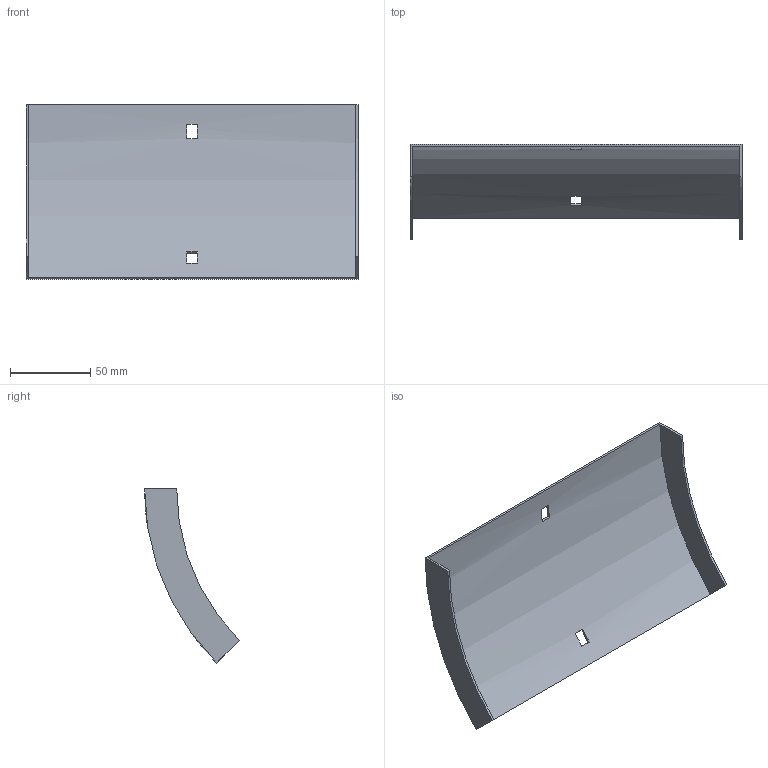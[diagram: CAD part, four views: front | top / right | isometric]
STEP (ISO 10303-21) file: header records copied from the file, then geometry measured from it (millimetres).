
FILE_DESCRIPTION (( 'STEP AP214' ), '1' );
FILE_NAME ('34N1B200.step', '2025-02-21T09:14:54', ( '' ), ( '' ), 'SwSTEP 2.0', 'SolidWorks 2023', '' );
FILE_SCHEMA (( 'AUTOMOTIVE_DESIGN' ));
Length unit declared in the file: millimetre
Products named in the file (1): 34N1B200
Bounding box: 207 x 59.1 x 108.54 mm (x, y, z)
Volume: 43296.4 mm3; surface area: 58870.4 mm2
Topology: 1 solids, 1 shells, 18 faces, 48 edges, 32 vertices
Faces by surface type: plane 14, cylinder 4
Entity records: 599 total; most frequent: DIRECTION 102, CARTESIAN_POINT 99, ORIENTED_EDGE 96, EDGE_CURVE 48, AXIS2_PLACEMENT_3D 35, VERTEX_POINT 32, LINE 32, VECTOR 32
